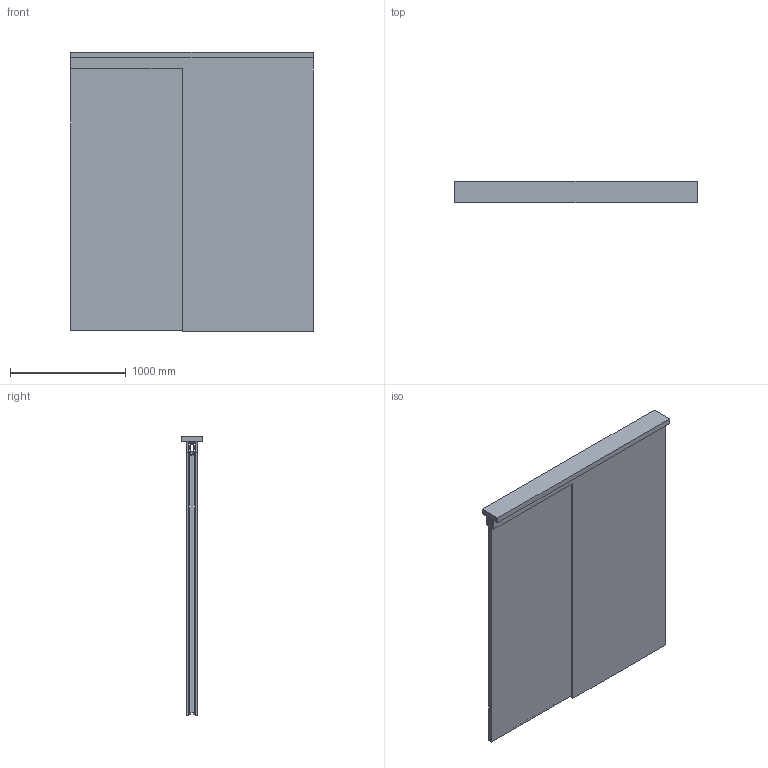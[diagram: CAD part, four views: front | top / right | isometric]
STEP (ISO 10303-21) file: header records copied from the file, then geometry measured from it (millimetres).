
FILE_DESCRIPTION(('STEP AP242'),'1');
FILE_NAME('OPO_65.084.13_volu_3d.stp','2026-02-23T17:29:33',(' '),(' '),'Spatial InterOp 3D',' ',' ');
FILE_SCHEMA(('AP242_MANAGED_MODEL_BASED_3D_ENGINEERING_MIM_LF {1 0 10303 442 1 1 4}'));
Length unit declared in the file: millimetre
Products named in the file (1): 1
Bounding box: 2100 x 188 x 2418 mm (x, y, z)
Volume: 217983545.2 mm3; surface area: 18765788.9 mm2
Topology: 10 solids, 10 shells, 384 faces, 1030 edges, 682 vertices
Faces by surface type: plane 300, cylinder 84
Entity records: 15042 total; most frequent: CARTESIAN_POINT 2106, ORIENTED_EDGE 2060, DIRECTION 1986, EDGE_CURVE 1030, LINE 862, VECTOR 862, VERTEX_POINT 682, AXIS2_PLACEMENT_3D 562
